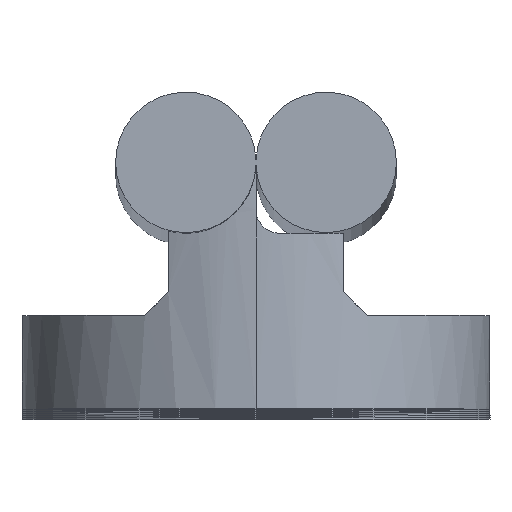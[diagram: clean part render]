
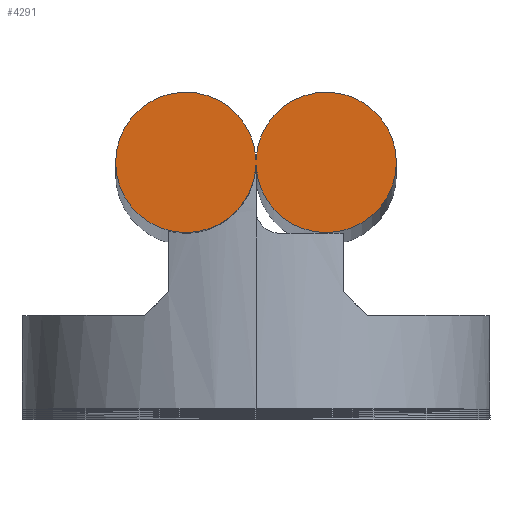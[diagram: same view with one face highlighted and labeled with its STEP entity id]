
A CAD part, top view. The second image highlights one B-rep face of the part: STEP entity #4291.
In plain terms, the highlighted planar face has unit normal (0, 0, 1).
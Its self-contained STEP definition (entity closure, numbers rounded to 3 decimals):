
#1487 = VERTEX_POINT ( 'NONE', #10246 ) ;
#1489 = EDGE_CURVE ( 'NONE', #1490, #1487, #10309, .T. ) ;
#1490 = VERTEX_POINT ( 'NONE', #10304 ) ;
#2417 = VERTEX_POINT ( 'NONE', #12428 ) ;
#2477 = EDGE_CURVE ( 'NONE', #2417, #1490, #12535, .T. ) ;
#2482 = EDGE_CURVE ( 'NONE', #2483, #2417, #12526, .T. ) ;
#2483 = VERTEX_POINT ( 'NONE', #12521 ) ;
#2542 = VERTEX_POINT ( 'NONE', #12693 ) ;
#2544 = EDGE_CURVE ( 'NONE', #1487, #2542, #12691, .T. ) ;
#2593 = ORIENTED_EDGE ( 'NONE', *, *, #2605, .T. ) ;
#2594 = ORIENTED_EDGE ( 'NONE', *, *, #2482, .T. ) ;
#2595 = ORIENTED_EDGE ( 'NONE', *, *, #2477, .T. ) ;
#2605 = EDGE_CURVE ( 'NONE', #2542, #2483, #12760, .T. ) ;
#4291 = ADVANCED_FACE ( 'NONE', ( #15563 ), #15606, .T. ) ;
#4292 = ORIENTED_EDGE ( 'NONE', *, *, #1489, .T. ) ;
#4293 = ORIENTED_EDGE ( 'NONE', *, *, #2544, .T. ) ;
#4294 = EDGE_LOOP ( 'NONE', ( #4292, #4293, #2593, #2594, #2595 ) ) ;
#10246 = CARTESIAN_POINT ( 'NONE',  ( 12., 21., 0. ) ) ;
#10304 = CARTESIAN_POINT ( 'NONE',  ( 0.005, 20.75, 0. ) ) ;
#10305 = DIRECTION ( 'NONE',  ( 1., 0., 0. ) ) ;
#10306 = DIRECTION ( 'NONE',  ( 0., 0., 1. ) ) ;
#10307 = CARTESIAN_POINT ( 'NONE',  ( 6., 21., 0. ) ) ;
#10308 = AXIS2_PLACEMENT_3D ( 'NONE', #10307, #10306, #10305 ) ;
#10309 = CIRCLE ( 'NONE', #10308, 6. ) ;
#12428 = CARTESIAN_POINT ( 'NONE',  ( -0.005, 20.75, 0. ) ) ;
#12521 = CARTESIAN_POINT ( 'NONE',  ( -0.005, 21.25, 0. ) ) ;
#12522 = DIRECTION ( 'NONE',  ( -1., 0., 0. ) ) ;
#12523 = DIRECTION ( 'NONE',  ( 0., 0., 1. ) ) ;
#12524 = CARTESIAN_POINT ( 'NONE',  ( -6., 21., 0. ) ) ;
#12525 = AXIS2_PLACEMENT_3D ( 'NONE', #12524, #12523, #12522 ) ;
#12526 = CIRCLE ( 'NONE', #12525, 6. ) ;
#12532 = DIRECTION ( 'NONE',  ( 1., 0., 0. ) ) ;
#12533 = VECTOR ( 'NONE', #12532, 1000. ) ;
#12534 = CARTESIAN_POINT ( 'NONE',  ( -0.005, 20.75, 0. ) ) ;
#12535 = LINE ( 'NONE', #12534, #12533 ) ;
#12552 = DIRECTION ( 'NONE',  ( -1., 0., 0. ) ) ;
#12687 = DIRECTION ( 'NONE',  ( 1., 0., 0. ) ) ;
#12688 = DIRECTION ( 'NONE',  ( 0., 0., 1. ) ) ;
#12689 = CARTESIAN_POINT ( 'NONE',  ( 6., 21., 0. ) ) ;
#12690 = AXIS2_PLACEMENT_3D ( 'NONE', #12689, #12688, #12687 ) ;
#12691 = CIRCLE ( 'NONE', #12690, 6. ) ;
#12693 = CARTESIAN_POINT ( 'NONE',  ( 0.005, 21.25, 0. ) ) ;
#12758 = VECTOR ( 'NONE', #12552, 1000. ) ;
#12759 = CARTESIAN_POINT ( 'NONE',  ( -0.005, 21.25, 0. ) ) ;
#12760 = LINE ( 'NONE', #12759, #12758 ) ;
#15563 = FACE_OUTER_BOUND ( 'NONE', #4294, .T. ) ;
#15602 = DIRECTION ( 'NONE',  ( 1., 0., 0. ) ) ;
#15603 = DIRECTION ( 'NONE',  ( 0., 0., 1. ) ) ;
#15604 = CARTESIAN_POINT ( 'NONE',  ( 6., 21., 0. ) ) ;
#15605 = AXIS2_PLACEMENT_3D ( 'NONE', #15604, #15603, #15602 ) ;
#15606 = PLANE ( 'NONE',  #15605 ) ;
